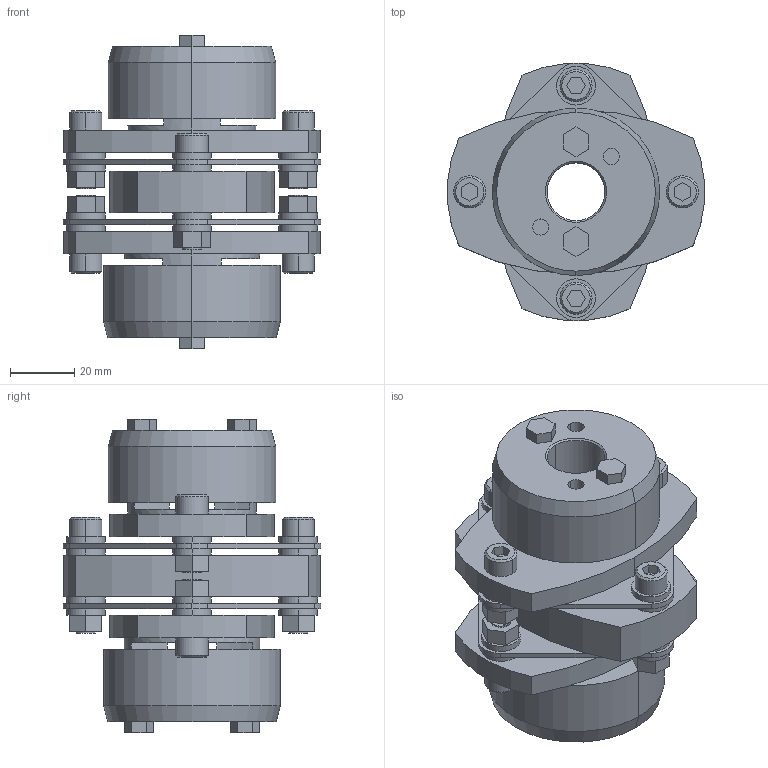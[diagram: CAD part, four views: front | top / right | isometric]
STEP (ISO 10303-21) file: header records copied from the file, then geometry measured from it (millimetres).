
FILE_DESCRIPTION((''),'2;1');
FILE_NAME('LCD-80T7-18×19.stp','2011-09-12T17:17:29',(''),(''),'AutoCAD STEP 2000i','AutoCAD 2000i',', , ');
FILE_SCHEMA(('CONFIG_CONTROL_DESIGN'));
Length unit declared in the file: millimetre
Products named in the file (6): LCD-80T7-17×19; 忣兜1; LC80T7-T019; LC80T7-T017-1; LC80T7-T017; LCD80-ITA
Assembly tree (5 placements, depth 2):
  LCD-80T7-17×19
    忣兜1
    LC80T7-T019
    LC80T7-T017-1
    LC80T7-T017
    LCD80-ITA
Bounding box: 80 x 79.95 x 97.5 mm (x, y, z)
Volume: 187115.1 mm3; surface area: 57390.8 mm2
Topology: 1 solids, 1 shells, 306 faces, 744 edges, 488 vertices
Faces by surface type: plane 162, cylinder 120, cone 24
Entity records: 9233 total; most frequent: DIRECTION 1648, CARTESIAN_POINT 1544, ORIENTED_EDGE 1488, EDGE_CURVE 744, AXIS2_PLACEMENT_3D 592, VERTEX_POINT 488, VECTOR 464, LINE 464
